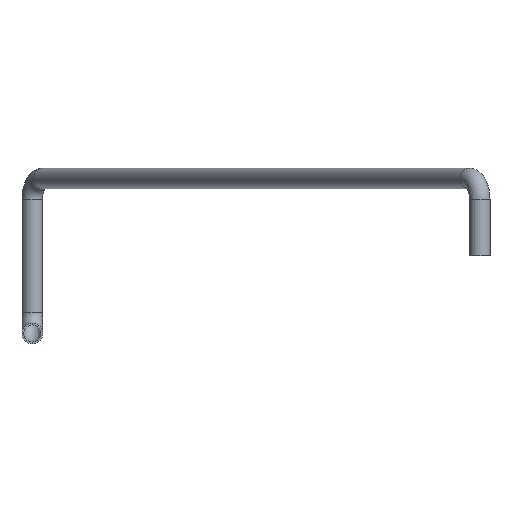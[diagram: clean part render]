
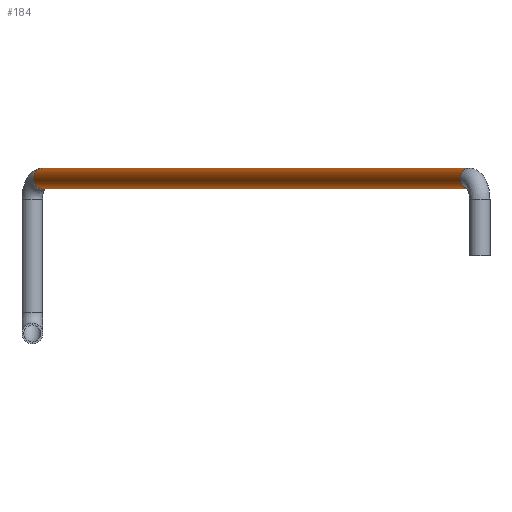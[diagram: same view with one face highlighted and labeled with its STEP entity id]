
A CAD part, left-side view. The second image highlights one B-rep face of the part: STEP entity #184.
In plain terms, the highlighted cylindrical face has radius 20 mm (diameter 40 mm), a full revolution.
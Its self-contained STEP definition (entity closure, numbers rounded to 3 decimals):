
#32=FACE_BOUND('',#74,.T.);
#48=FACE_OUTER_BOUND('',#73,.T.);
#73=EDGE_LOOP('',(#153));
#74=EDGE_LOOP('',(#154));
#97=CIRCLE('',#212,20.);
#98=CIRCLE('',#214,20.);
#113=VERTEX_POINT('',#321);
#114=VERTEX_POINT('',#324);
#129=EDGE_CURVE('',#113,#113,#97,.T.);
#130=EDGE_CURVE('',#114,#114,#98,.T.);
#153=ORIENTED_EDGE('',*,*,#129,.F.);
#154=ORIENTED_EDGE('',*,*,#130,.T.);
#172=CYLINDRICAL_SURFACE('',#213,20.);
#184=ADVANCED_FACE('',(#48,#32),#172,.T.);
#212=AXIS2_PLACEMENT_3D('',#322,#265,#266);
#213=AXIS2_PLACEMENT_3D('',#323,#267,#268);
#214=AXIS2_PLACEMENT_3D('',#325,#269,#270);
#265=DIRECTION('center_axis',(-0.866,-0.5,0.));
#266=DIRECTION('ref_axis',(0.433,-0.75,-0.5));
#267=DIRECTION('center_axis',(-0.866,-0.5,0.));
#268=DIRECTION('ref_axis',(0.433,-0.75,-0.5));
#269=DIRECTION('center_axis',(-0.866,-0.5,0.));
#270=DIRECTION('ref_axis',(0.433,-0.75,-0.5));
#321=CARTESIAN_POINT('',(-1174.019,-831.025,310.));
#322=CARTESIAN_POINT('Origin',(-1165.359,-846.025,300.));
#323=CARTESIAN_POINT('Origin',(265.359,-20.,300.));
#324=CARTESIAN_POINT('',(256.699,-5.,310.));
#325=CARTESIAN_POINT('Origin',(265.359,-20.,300.));
